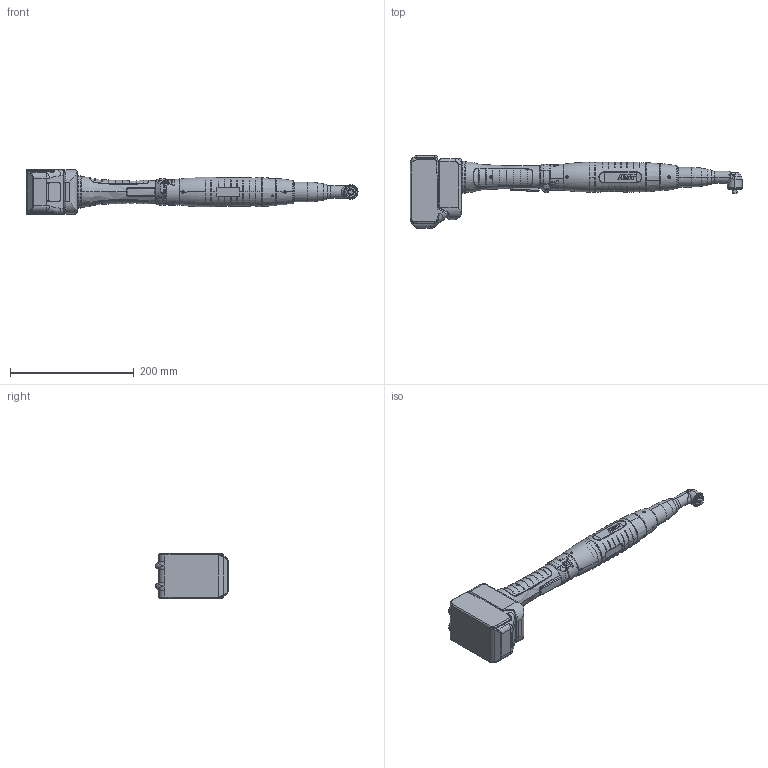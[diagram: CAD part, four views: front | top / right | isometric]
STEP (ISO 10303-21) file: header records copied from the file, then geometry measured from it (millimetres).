
FILE_DESCRIPTION (( 'STEP AP214' ), '1' );
FILE_NAME ('7900246_HCXBW1015WV14.STEP', '2011-02-03T15:47:57', ( ' ' ), ( '' ), 'SwSTEP 2.0', 'SolidWorks 2009', '' );
FILE_SCHEMA (( 'AUTOMOTIVE_DESIGN' ));
Length unit declared in the file: millimetre
Products named in the file (1): 7900246_HCXBW1015WV14
Bounding box: 535.9 x 117.4 x 72 mm (x, y, z)
Surface area: 121895.6 mm2 (no closed solid volume)
Topology: 0 solids, 33 shells, 979 faces, 3402 edges, 2330 vertices
Faces by surface type: torus 251, cylinder 228, bspline 222, plane 219, cone 43, sphere 16
Entity records: 64366 total; most frequent: CARTESIAN_POINT 27270, ORIENTED_EDGE 5291, DIRECTION 5192, EDGE_CURVE 3360, VERTEX_POINT 2314, AXIS2_PLACEMENT_3D 2169, CIRCLE 1417, EDGE_LOOP 1084
